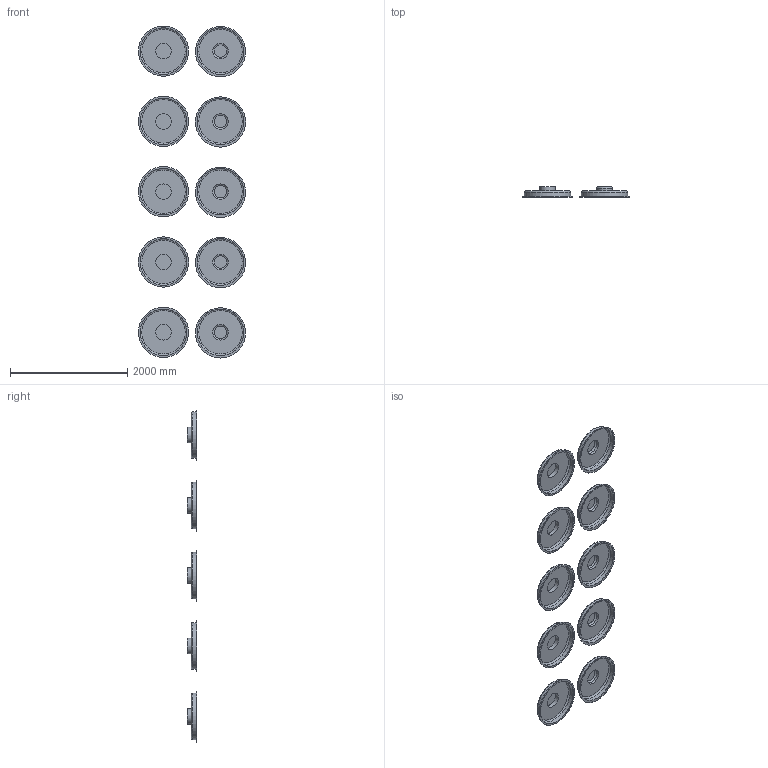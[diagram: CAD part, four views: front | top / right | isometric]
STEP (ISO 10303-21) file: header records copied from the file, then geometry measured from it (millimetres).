
FILE_DESCRIPTION(/* description */ (''),/* implementation_level */ '2;1');
FILE_NAME(/* name */ 'C:\Vault2017\Designs\GPD-01\Design-Engineering\Trillium II\Revit Models\TSDC-II-HFC-2x5-Front.stp',/* time_stamp */ '2018-10-23T08:52:54+02:00',/* author */ ('jvandermieren'),/* organization */ (''),/* preprocessor_version */ 'ST-DEVELOPER v16.5',/* originating_system */ 'Autodesk Inventor 2017',/* authorisation */ '');
FILE_SCHEMA (('AUTOMOTIVE_DESIGN { 1 0 10303 214 3 1 1 }'));
Length unit declared in the file: inch
Products named in the file (1): TSDC-II-HFC-2x5-Front
Bounding box: 1830.83 x 166.37 x 5667.93 mm (x, y, z)
Volume: 5126381 mm3; surface area: 21372289.4 mm2
Topology: 10 solids, 23 shells, 95 faces, 140 edges, 85 vertices
Faces by surface type: plane 40, cylinder 40, torus 15
Full cylindrical faces by diameter (mm): 265.176 x10, 794.766 x20, 856.996 x10
Entity records: 6948 total; most frequent: DIRECTION 1154, CARTESIAN_POINT 1115, ORIENTED_EDGE 978, EDGE_CURVE 479, EDGE_LOOP 430, AXIS2_PLACEMENT_3D 400, VERTEX_POINT 361, LINE 354
